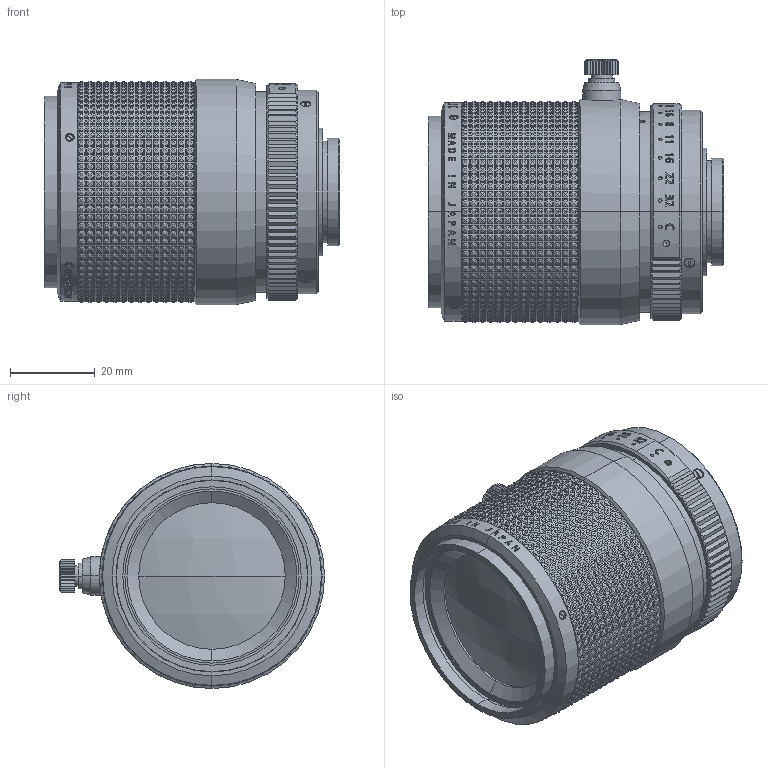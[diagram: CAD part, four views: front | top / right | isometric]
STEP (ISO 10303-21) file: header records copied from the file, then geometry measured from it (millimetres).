
FILE_DESCRIPTION (( 'STEP AP203' ), '1' );
FILE_NAME ('1000-001(TEC-M55 テレセンレンズ)_Assy.STEP', '2016-09-06T06:30:06', ( '' ), ( '' ), 'SwSTEP 2.0', 'SolidWorks 2016', '' );
FILE_SCHEMA (( 'CONFIG_CONTROL_DESIGN' ));
Length unit declared in the file: millimetre
Products named in the file (35): 1000-0005(ML 5); 1000-1511; 1000-1311; CSPCS3P-STH-M1_7-2_5; 1000-1312; CSPCS3P-STH-M1_7-2_5_CSPCS3P-STH-M1_7-2_5; slotted set screw cup point_jis; 1000-1315; slotted set screw cup point_jis_JIS B 1117 Cup point M3 x 3--N; 1000-1316; slotted set screw cup point_jis_JIS B 1117 Cup point M2 x 2.5--N; 1000-1321; 1000-001(TEC-M55 テレセンレンズ)_Assy; 1000-1322-2a; 1000-001-内部ﾒｶ部品群(簡易版); 1000-1322-2b; 1000-0001(ML 1); 1000-1325
Assembly tree (19 placements, depth 2):
  1000-1511
  1000-1311
  CSPCS3P-STH-M1_7-2_5
  1000-1312
  slotted set screw cup point_jis
Bounding box: 69.5 x 62.4 x 53 mm (x, y, z)
Volume: 81575.8 mm3; surface area: 94629.5 mm2
Topology: 20 solids, 20 shells, 6391 faces, 13735 edges, 8639 vertices
Faces by surface type: plane 2892, cone 2512, bspline 555, cylinder 424, sphere 8
Entity records: 223130 total; most frequent: CARTESIAN_POINT 94040, ORIENTED_EDGE 27206, DIRECTION 22095, EDGE_CURVE 13603, AXIS2_PLACEMENT_3D 9275, VERTEX_POINT 8563, EDGE_LOOP 7644, B_SPLINE_CURVE_WITH_KNOTS 6590
